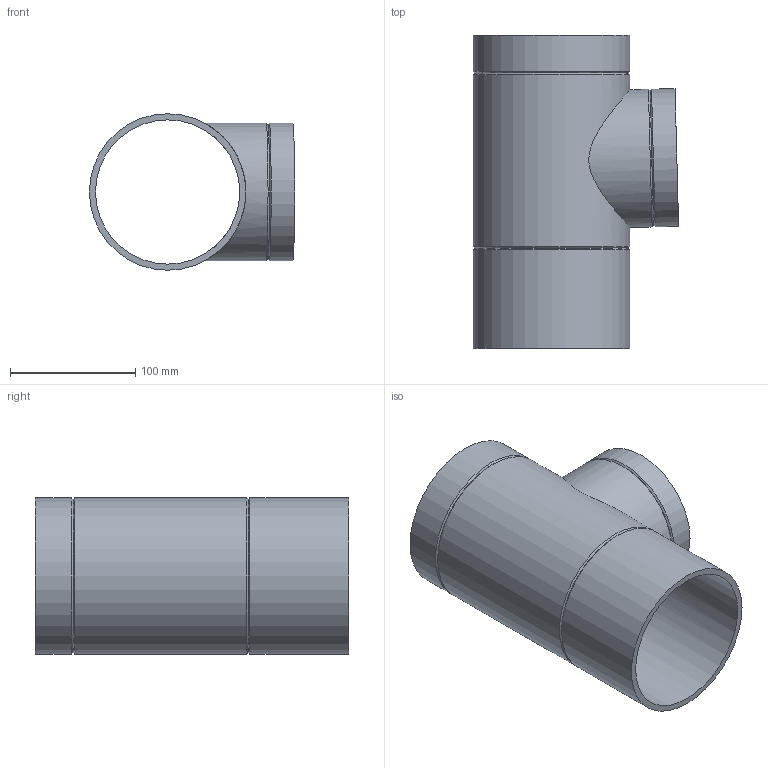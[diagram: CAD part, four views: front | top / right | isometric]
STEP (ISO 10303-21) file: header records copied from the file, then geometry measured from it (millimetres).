
FILE_DESCRIPTION(/* description */ (''),/* implementation_level */ '2;1');
FILE_NAME(/* name */ 'Z:\Geberit\Export\NewStep\368185.stp',/* time_stamp */ '2014-04-02T08:00:12+02:00',/* author */ ('nelson'),/* organization */ (''),/* preprocessor_version */ 'ST-DEVELOPER v15.2',/* originating_system */ 'Autodesk Inventor 2014',/* authorisation */ '');
FILE_SCHEMA (('AUTOMOTIVE_DESIGN { 1 0 10303 214 3 1 1 }'));
Length unit declared in the file: millimetre
Products named in the file (1): 368185
Bounding box: 163.91 x 250 x 125 mm (x, y, z)
Volume: 488546.7 mm3; surface area: 210712.9 mm2
Topology: 1 solids, 1 shells, 16 faces, 37 edges, 23 vertices
Faces by surface type: cylinder 7, cone 6, plane 3
Full cylindrical faces by diameter (mm): 101.4 x1, 110 x2, 115.2 x1, 125 x3
Entity records: 503 total; most frequent: CARTESIAN_POINT 181, DIRECTION 64, EDGE_LOOP 34, ORIENTED_EDGE 34, AXIS2_PLACEMENT_3D 32, FACE_BOUND 22, VERTEX_POINT 17, EDGE_CURVE 17
